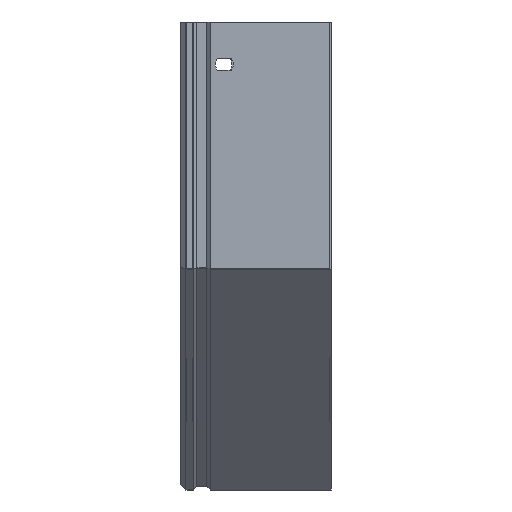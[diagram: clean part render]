
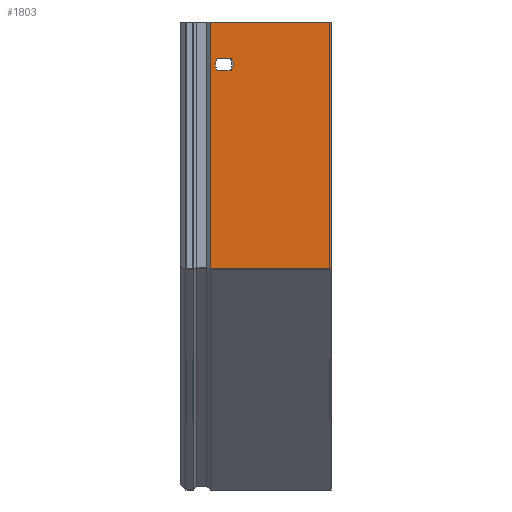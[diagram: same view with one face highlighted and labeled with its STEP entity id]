
A CAD part, left-side view. The second image highlights one B-rep face of the part: STEP entity #1803.
In plain terms, the highlighted planar face has unit normal (-1, 0, 0).
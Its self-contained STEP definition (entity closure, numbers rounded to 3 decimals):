
#24 = VECTOR ( 'NONE', #4605, 1000. ) ;
#26 = LINE ( 'NONE', #4157, #3204 ) ;
#70 = DIRECTION ( 'NONE',  ( 0., 0., 1. ) ) ;
#75 = VERTEX_POINT ( 'NONE', #3357 ) ;
#383 = VERTEX_POINT ( 'NONE', #2484 ) ;
#429 = VERTEX_POINT ( 'NONE', #3984 ) ;
#459 = VERTEX_POINT ( 'NONE', #4003 ) ;
#487 = ORIENTED_EDGE ( 'NONE', *, *, #2948, .T. ) ;
#595 = EDGE_CURVE ( 'NONE', #664, #1014, #3009, .T. ) ;
#600 = ORIENTED_EDGE ( 'NONE', *, *, #3535, .T. ) ;
#664 = VERTEX_POINT ( 'NONE', #3419 ) ;
#722 = VERTEX_POINT ( 'NONE', #931 ) ;
#753 = ORIENTED_EDGE ( 'NONE', *, *, #2879, .T. ) ;
#883 = EDGE_CURVE ( 'NONE', #1014, #722, #3952, .T. ) ;
#896 = CARTESIAN_POINT ( 'NONE',  ( -310.371, 0., 146.371 ) ) ;
#928 = VECTOR ( 'NONE', #1458, 1000. ) ;
#931 = CARTESIAN_POINT ( 'NONE',  ( -310.371, 74.472, 278.371 ) ) ;
#937 = VECTOR ( 'NONE', #4174, 1000. ) ;
#1014 = VERTEX_POINT ( 'NONE', #4145 ) ;
#1101 = CARTESIAN_POINT ( 'NONE',  ( -310.371, 70., 282.371 ) ) ;
#1103 = VECTOR ( 'NONE', #1932, 1000. ) ;
#1135 = FACE_OUTER_BOUND ( 'NONE', #4693, .T. ) ;
#1182 = ORIENTED_EDGE ( 'NONE', *, *, #2411, .T. ) ;
#1249 = CARTESIAN_POINT ( 'NONE',  ( -310.371, 0., 310.371 ) ) ;
#1258 = LINE ( 'NONE', #896, #1103 ) ;
#1282 = ORIENTED_EDGE ( 'NONE', *, *, #4468, .F. ) ;
#1328 = FACE_BOUND ( 'NONE', #3372, .T. ) ;
#1343 = LINE ( 'NONE', #1249, #937 ) ;
#1458 = DIRECTION ( 'NONE',  ( 0., 1., 0. ) ) ;
#1620 = AXIS2_PLACEMENT_3D ( 'NONE', #1101, #3326, #2597 ) ;
#1803 = ADVANCED_FACE ( 'NONE', ( #1328, #1135 ), #2974, .T. ) ;
#1932 = DIRECTION ( 'NONE',  ( 0., -1., 0. ) ) ;
#2017 = EDGE_CURVE ( 'NONE', #383, #2683, #1343, .T. ) ;
#2112 = CARTESIAN_POINT ( 'NONE',  ( -310.371, 74.472, 278.371 ) ) ;
#2169 = CARTESIAN_POINT ( 'NONE',  ( -310.371, 0., 146.371 ) ) ;
#2252 = DIRECTION ( 'NONE',  ( 0., 0., -1. ) ) ;
#2411 = EDGE_CURVE ( 'NONE', #722, #429, #2639, .T. ) ;
#2484 = CARTESIAN_POINT ( 'NONE',  ( -310.371, -1., 310.371 ) ) ;
#2546 = CARTESIAN_POINT ( 'NONE',  ( -310.371, 74.472, 286.371 ) ) ;
#2559 = ORIENTED_EDGE ( 'NONE', *, *, #2017, .T. ) ;
#2597 = DIRECTION ( 'NONE',  ( 0., 0., -1. ) ) ;
#2602 = DIRECTION ( 'NONE',  ( -1., 0., 0. ) ) ;
#2638 = CARTESIAN_POINT ( 'NONE',  ( -310.371, 70., 282.371 ) ) ;
#2639 = CIRCLE ( 'NONE', #3802, 6. ) ;
#2683 = VERTEX_POINT ( 'NONE', #4341 ) ;
#2728 = VECTOR ( 'NONE', #4024, 1000. ) ;
#2879 = EDGE_CURVE ( 'NONE', #75, #383, #3051, .T. ) ;
#2948 = EDGE_CURVE ( 'NONE', #459, #75, #1258, .T. ) ;
#2974 = PLANE ( 'NONE',  #4022 ) ;
#3009 = CIRCLE ( 'NONE', #1620, 6. ) ;
#3051 = LINE ( 'NONE', #3483, #24 ) ;
#3204 = VECTOR ( 'NONE', #70, 1000. ) ;
#3326 = DIRECTION ( 'NONE',  ( 1., 0., 0. ) ) ;
#3357 = CARTESIAN_POINT ( 'NONE',  ( -310.371, -1., 146.371 ) ) ;
#3359 = DIRECTION ( 'NONE',  ( 0., 0., 1. ) ) ;
#3372 = EDGE_LOOP ( 'NONE', ( #1182, #600, #4717, #4553 ) ) ;
#3419 = CARTESIAN_POINT ( 'NONE',  ( -310.371, 65.528, 286.371 ) ) ;
#3483 = CARTESIAN_POINT ( 'NONE',  ( -310.371, -1., 146.371 ) ) ;
#3535 = EDGE_CURVE ( 'NONE', #429, #664, #4002, .T. ) ;
#3707 = DIRECTION ( 'NONE',  ( 1., 0., 0. ) ) ;
#3802 = AXIS2_PLACEMENT_3D ( 'NONE', #2638, #3707, #2252 ) ;
#3952 = LINE ( 'NONE', #2112, #928 ) ;
#3984 = CARTESIAN_POINT ( 'NONE',  ( -310.371, 74.472, 286.371 ) ) ;
#4002 = LINE ( 'NONE', #2546, #2728 ) ;
#4003 = CARTESIAN_POINT ( 'NONE',  ( -310.371, 79.5, 146.371 ) ) ;
#4022 = AXIS2_PLACEMENT_3D ( 'NONE', #2169, #2602, #3359 ) ;
#4024 = DIRECTION ( 'NONE',  ( 0., -1., 0. ) ) ;
#4145 = CARTESIAN_POINT ( 'NONE',  ( -310.371, 65.528, 278.371 ) ) ;
#4157 = CARTESIAN_POINT ( 'NONE',  ( -310.371, 79.5, 146.371 ) ) ;
#4174 = DIRECTION ( 'NONE',  ( 0., 1., 0. ) ) ;
#4341 = CARTESIAN_POINT ( 'NONE',  ( -310.371, 79.5, 310.371 ) ) ;
#4468 = EDGE_CURVE ( 'NONE', #459, #2683, #26, .T. ) ;
#4553 = ORIENTED_EDGE ( 'NONE', *, *, #883, .T. ) ;
#4605 = DIRECTION ( 'NONE',  ( 0., 0., 1. ) ) ;
#4693 = EDGE_LOOP ( 'NONE', ( #487, #753, #2559, #1282 ) ) ;
#4717 = ORIENTED_EDGE ( 'NONE', *, *, #595, .T. ) ;
